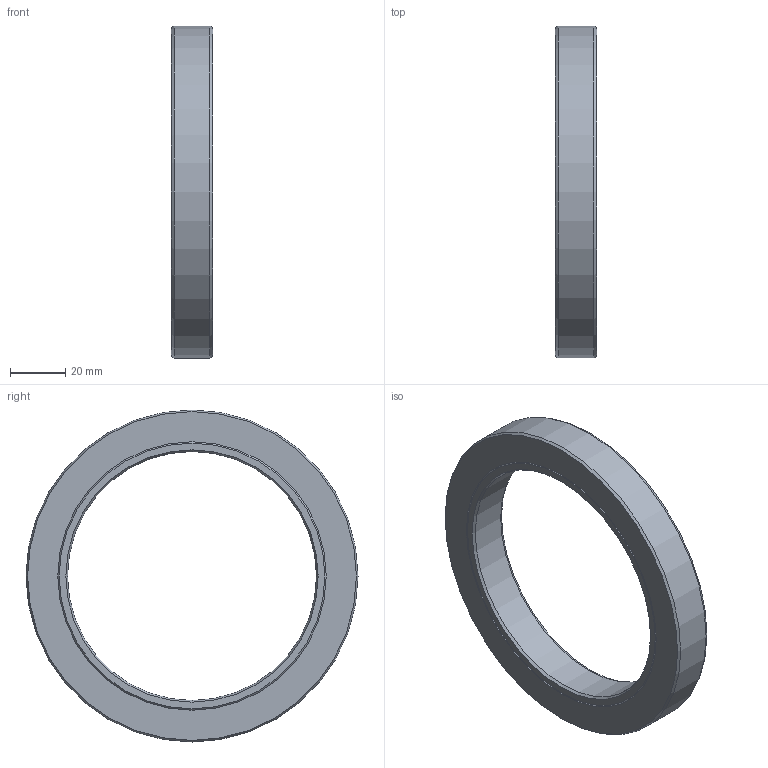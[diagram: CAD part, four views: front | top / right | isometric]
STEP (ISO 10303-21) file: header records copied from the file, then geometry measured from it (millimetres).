
FILE_DESCRIPTION(/* description */ (''),/* implementation_level */ '2;1');
FILE_NAME(/* name */ '301687 S90x120x15.stp',/* time_stamp */ '2016-12-16T14:04:57+01:00',/* author */ (''),/* organization */ (''),/* preprocessor_version */ 'ST-DEVELOPER v15',/* originating_system */ 'SIEMENS PLM Software NX 8.5',/* authorisation */ '');
FILE_SCHEMA (('CONFIG_CONTROL_DESIGN'));
Length unit declared in the file: millimetre
Products named in the file (1): ATE0000143_01
Bounding box: 15 x 120 x 120 mm (x, y, z)
Volume: 71373.6 mm3; surface area: 31161.7 mm2
Topology: 2 solids, 2 shells, 16 faces, 30 edges, 18 vertices
Faces by surface type: cone 10, plane 4, cylinder 2
Full cylindrical faces by diameter (mm): 90 x1, 120 x1
Entity records: 414 total; most frequent: DIRECTION 66, CARTESIAN_POINT 49, AXIS2_PLACEMENT_3D 33, FACE_BOUND 32, EDGE_LOOP 32, ORIENTED_EDGE 32, ADVANCED_FACE 16, VERTEX_POINT 16
